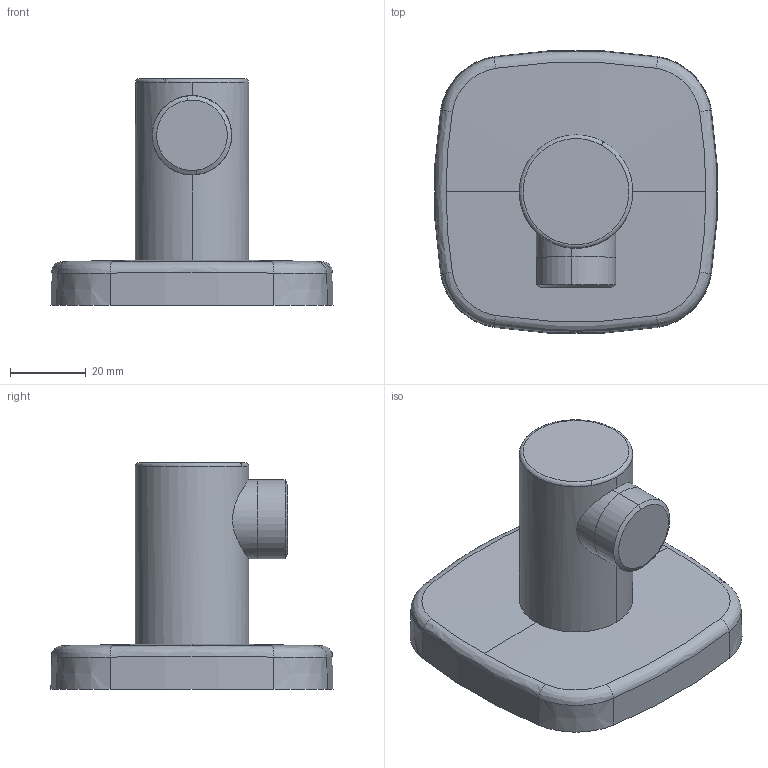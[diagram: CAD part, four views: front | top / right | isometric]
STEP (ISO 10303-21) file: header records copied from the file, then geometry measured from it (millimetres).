
FILE_DESCRIPTION (( 'STEP AP203' ), '1' );
FILE_NAME ('223302(2017)+51180193.STEP', '2017-03-14T10:33:22', ( '' ), ( '' ), 'SwSTEP 2.0', 'SolidWorks 2016', '' );
FILE_SCHEMA (( 'CONFIG_CONTROL_DESIGN' ));
Length unit declared in the file: millimetre
Products named in the file (1): 223302(2017)+51180193
Bounding box: 74.62 x 74.62 x 60 mm (x, y, z)
Volume: 96716.8 mm3; surface area: 18384.6 mm2
Topology: 1 solids, 1 shells, 36 faces, 83 edges, 52 vertices
Faces by surface type: bspline 10, cone 10, cylinder 8, plane 6, sphere 2
Entity records: 1497 total; most frequent: CARTESIAN_POINT 655, ORIENTED_EDGE 166, DIRECTION 153, EDGE_CURVE 83, AXIS2_PLACEMENT_3D 67, VERTEX_POINT 52, CIRCLE 40, EDGE_LOOP 39
